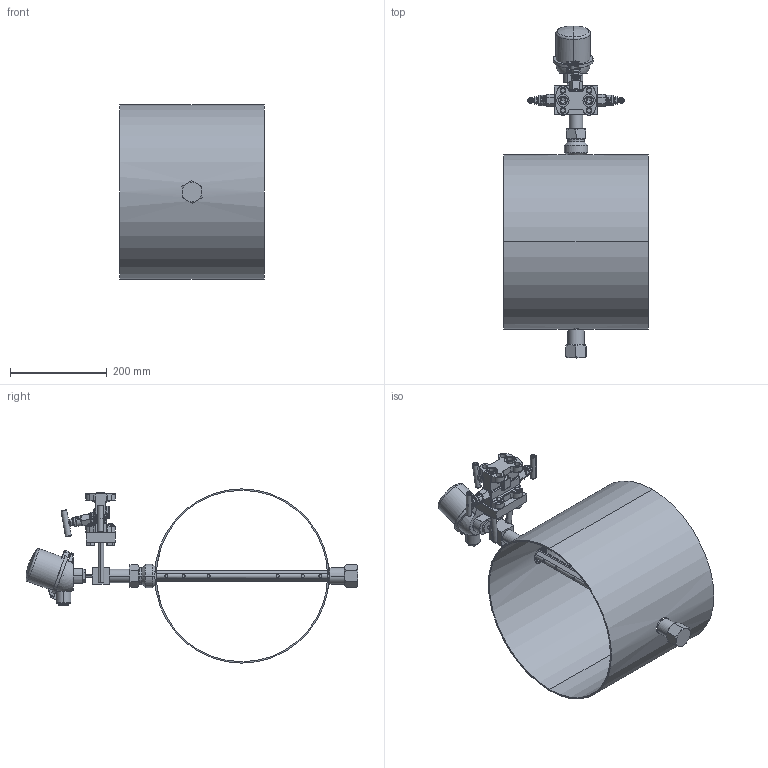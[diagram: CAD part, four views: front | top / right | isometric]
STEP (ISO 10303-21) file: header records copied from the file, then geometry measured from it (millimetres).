
FILE_DESCRIPTION (( 'STEP AP203' ), '1' );
FILE_NAME ('FB-SDF-M-22-ID-WS+H-SC-FPK-DE-T-H-001-00.STEP', '2012-07-17T13:12:59', ( 'M. Kriebitz' ), ( '' ), 'SwSTEP 2.0', 'SolidWorks 2010', '' );
FILE_SCHEMA (( 'CONFIG_CONTROL_DESIGN' ));
Products named in the file (26): FZ-GLG-22-PN40-002-01; Schweißnahtdarstellung_22; Zwischenblech_22; FB-MST-28L-PN40-001-00; Halsrohr_Halsrohr Ø28 x 2 x 90; Anschluss Pt100; FZ-FLP-10_50-PN100-001-01; N542_46_491_01; FZ-MST-28L-PN40-001-01; SDF-22-Profil_ID=349,0mm; WS=3,0mm; L1=372,0mm; L2=452,0mm; mit GL; Rund; Rohrleitung Flanschsonde_Rund; FB-SDF-M-22-ID-WS+H-SC-FPK-DE-T-H-001-00; Verschlussplaettchen_22; Sondenprofilschale_22_2_L2=452mm; Sondenprofilschale_22_1_L1=372mm; FZ-GLG-22-PN40-001-01; FZ-GLG-22-PN40-003-00; FZ-FT-SDF22-001-01; 6kt-Mutter_28; FPK-DE-T_FB-SDF-F-22-ID-WS+H-PN40-FP-DE-0-V-001; Schneidring_28; FZ-RS-001-00; FZ-SKO-22-PN100-0-V-001-00; Hex Finished Bolt_AI_HFBOLT 0.4375-20x1.5x1.125-N; BUZ-H
Assembly tree (29 placements, depth 3):
  FB-SDF-M-22-ID-WS+H-SC-FPK-DE-T-H-001-00
    SDF-22-Profil_ID=349,0mm; WS=3,0mm; L1=372,0mm; L2=452,0mm; mit GL; Rund
      Sondenprofilschale_22_1_L1=372mm
      Sondenprofilschale_22_2_L2=452mm
      Verschlussplaettchen_22
      Schweißnahtdarstellung_22
      Schweißnahtdarstellung_22
      Zwischenblech_22
    FZ-FT-SDF22-001-01
    FPK-DE-T_FB-SDF-F-22-ID-WS+H-PN40-FP-DE-0-V-001
      BUZ-H
      N542_46_491_01
      FZ-RS-001-00  x2
      Hex Finished Bolt_AI_HFBOLT 0.4375-20x1.5x1.125-N  x4
      FZ-FLP-10_50-PN100-001-01
      Anschluss Pt100
      FZ-SKO-22-PN100-0-V-001-00
    Rohrleitung Flanschsonde_Rund
    Halsrohr_Halsrohr Ø28 x 2 x 90
    FB-MST-28L-PN40-001-00
      FZ-MST-28L-PN40-001-01
      Schneidring_28
      6kt-Mutter_28
    FZ-GLG-22-PN40-003-00
      FZ-GLG-22-PN40-001-01
      FZ-GLG-22-PN40-002-01
Bounding box: 300 x 687.64 x 361 mm (x, y, z)
Volume: 2033344.7 mm3; surface area: 968092.2 mm2
Topology: 46 solids, 46 shells, 1992 faces, 4964 edges, 3074 vertices
Faces by surface type: plane 576, cylinder 566, bspline 443, cone 307, torus 82, sphere 18
Entity records: 100778 total; most frequent: CARTESIAN_POINT 55866, ORIENTED_EDGE 9376, DIRECTION 7627, EDGE_CURVE 4688, VERTEX_POINT 2954, AXIS2_PLACEMENT_3D 2861, EDGE_LOOP 2086, VECTOR 1905
